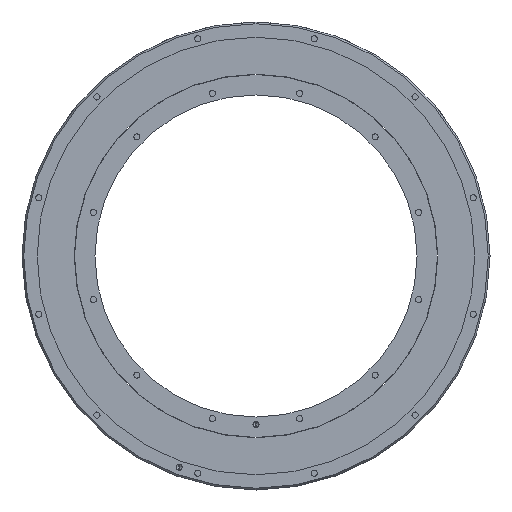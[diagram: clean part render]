
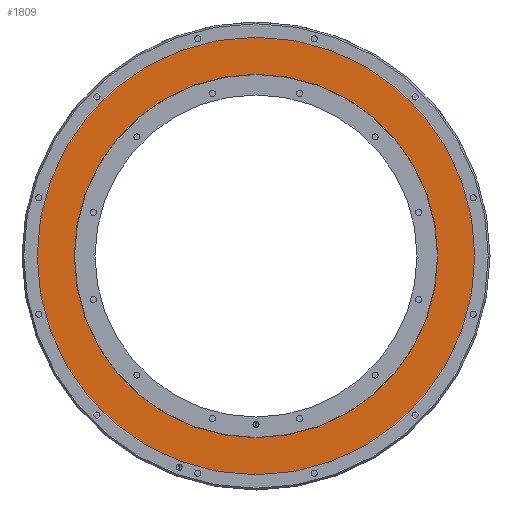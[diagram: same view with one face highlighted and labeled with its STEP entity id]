
A CAD part, front view. The second image highlights one B-rep face of the part: STEP entity #1809.
In plain terms, the highlighted planar face has unit normal (0, -1, 0).
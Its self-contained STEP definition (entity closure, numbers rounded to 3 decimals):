
#17 = CARTESIAN_POINT ( 'NONE',  ( 0., 1., 0. ) ) ;
#52 = EDGE_LOOP ( 'NONE', ( #5522, #5222 ) ) ;
#147 = VERTEX_POINT ( 'NONE', #3244 ) ;
#507 = DIRECTION ( 'NONE',  ( 0., 0., -1. ) ) ;
#596 = DIRECTION ( 'NONE',  ( 0., -1., 0. ) ) ;
#732 = VERTEX_POINT ( 'NONE', #3362 ) ;
#1151 = CARTESIAN_POINT ( 'NONE',  ( 0., 1., 0. ) ) ;
#1219 = VERTEX_POINT ( 'NONE', #1424 ) ;
#1312 = EDGE_LOOP ( 'NONE', ( #4846, #6344 ) ) ;
#1389 = EDGE_CURVE ( 'NONE', #147, #1219, #6412, .T. ) ;
#1424 = CARTESIAN_POINT ( 'NONE',  ( 0., 1., -180. ) ) ;
#1608 = DIRECTION ( 'NONE',  ( 0., 0., -1. ) ) ;
#1809 = ADVANCED_FACE ( 'NONE', ( #5868, #5144 ), #2952, .T. ) ;
#1837 = AXIS2_PLACEMENT_3D ( 'NONE', #4667, #5692, #3648 ) ;
#1916 = CARTESIAN_POINT ( 'NONE',  ( 0., 1., 0. ) ) ;
#2042 = CIRCLE ( 'NONE', #5255, 180. ) ;
#2411 = DIRECTION ( 'NONE',  ( 0., -1., 0. ) ) ;
#2609 = AXIS2_PLACEMENT_3D ( 'NONE', #3986, #4893, #5426 ) ;
#2952 = PLANE ( 'NONE',  #2609 ) ;
#3244 = CARTESIAN_POINT ( 'NONE',  ( 0., 1., 180. ) ) ;
#3362 = CARTESIAN_POINT ( 'NONE',  ( 0., 1., -149.5 ) ) ;
#3425 = VERTEX_POINT ( 'NONE', #6335 ) ;
#3426 = EDGE_CURVE ( 'NONE', #732, #3425, #5605, .T. ) ;
#3604 = EDGE_CURVE ( 'NONE', #1219, #147, #2042, .T. ) ;
#3648 = DIRECTION ( 'NONE',  ( 0., 0., -1. ) ) ;
#3986 = CARTESIAN_POINT ( 'NONE',  ( 149.5, 1., 0. ) ) ;
#4001 = EDGE_CURVE ( 'NONE', #3425, #732, #4565, .T. ) ;
#4156 = AXIS2_PLACEMENT_3D ( 'NONE', #17, #6014, #507 ) ;
#4565 = CIRCLE ( 'NONE', #1837, 149.5 ) ;
#4667 = CARTESIAN_POINT ( 'NONE',  ( 0., 1., 0. ) ) ;
#4846 = ORIENTED_EDGE ( 'NONE', *, *, #3426, .F. ) ;
#4893 = DIRECTION ( 'NONE',  ( 0., -1., 0. ) ) ;
#4912 = AXIS2_PLACEMENT_3D ( 'NONE', #1916, #2411, #5874 ) ;
#5144 = FACE_BOUND ( 'NONE', #1312, .T. ) ;
#5222 = ORIENTED_EDGE ( 'NONE', *, *, #1389, .T. ) ;
#5255 = AXIS2_PLACEMENT_3D ( 'NONE', #1151, #596, #1608 ) ;
#5426 = DIRECTION ( 'NONE',  ( 0., 0., -1. ) ) ;
#5522 = ORIENTED_EDGE ( 'NONE', *, *, #3604, .T. ) ;
#5605 = CIRCLE ( 'NONE', #4912, 149.5 ) ;
#5692 = DIRECTION ( 'NONE',  ( 0., -1., 0. ) ) ;
#5868 = FACE_OUTER_BOUND ( 'NONE', #52, .T. ) ;
#5874 = DIRECTION ( 'NONE',  ( 0., 0., -1. ) ) ;
#6014 = DIRECTION ( 'NONE',  ( 0., -1., 0. ) ) ;
#6335 = CARTESIAN_POINT ( 'NONE',  ( 0., 1., 149.5 ) ) ;
#6344 = ORIENTED_EDGE ( 'NONE', *, *, #4001, .F. ) ;
#6412 = CIRCLE ( 'NONE', #4156, 180. ) ;
